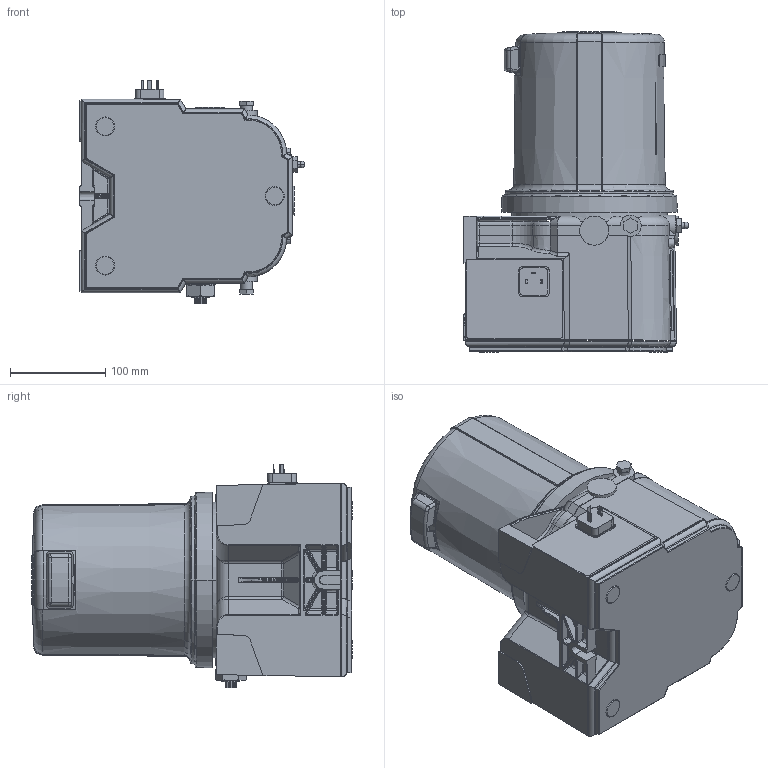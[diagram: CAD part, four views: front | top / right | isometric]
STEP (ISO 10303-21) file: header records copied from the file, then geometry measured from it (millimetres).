
FILE_DESCRIPTION((''),'2;1');
FILE_NAME('94G054-EN-V_PRT','2022-02-21T16:04:59',('qtmwp1'),(''),'CREO PARAMETRIC BY PTC INC, 2021072','CREO PARAMETRIC BY PTC INC, 2021072','');
FILE_SCHEMA(('CONFIG_CONTROL_DESIGN'));
Length unit declared in the file: inch
Products named in the file (1): 94G054-EN-V_PRT
Bounding box: 235.93 x 336.52 x 235 mm (x, y, z)
Surface area: 435506.6 mm2 (no closed solid volume)
Topology: 0 solids, 38 shells, 910 faces, 2729 edges, 1738 vertices
Faces by surface type: plane 318, cylinder 311, bspline 151, torus 65, cone 63, sphere 2
Entity records: 39019 total; most frequent: CARTESIAN_POINT 17195, ORIENTED_EDGE 4526, DIRECTION 4009, EDGE_CURVE 2725, VERTEX_POINT 1738, AXIS2_PLACEMENT_3D 1458, VECTOR 1093, LINE 1093
